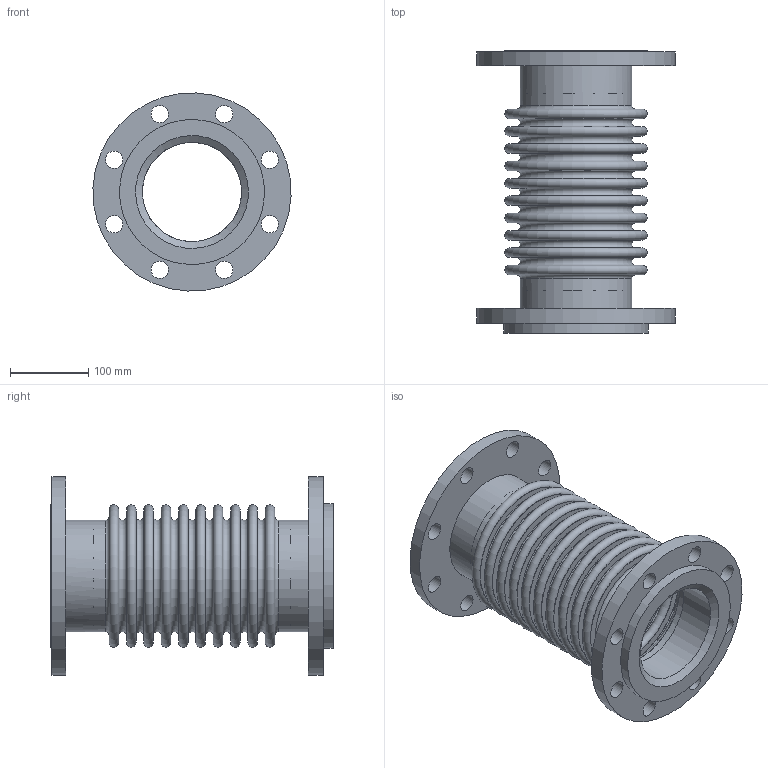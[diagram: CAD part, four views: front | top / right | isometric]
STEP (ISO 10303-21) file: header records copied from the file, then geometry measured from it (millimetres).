
FILE_DESCRIPTION(/* description */ (''),/* implementation_level */ '2;1');
FILE_NAME(/* name */ 'C:\001_Work\Designs\EFL50-ASA150LB\EFL50-5x14.25 (ASA150LB).stp',/* time_stamp */ '2016-05-10T08:24:51-04:00',/* author */ ('rramoutar'),/* organization */ ('Mason Industries Inc.'),/* preprocessor_version */ 'ST-DEVELOPER v15.6',/* originating_system */ 'Autodesk Inventor 2015',/* authorisation */ '');
FILE_SCHEMA (('CONFIG_CONTROL_DESIGN'));
Length unit declared in the file: inch
Products named in the file (1): EFL50-5x14.25
Bounding box: 253.76 x 361.95 x 253.76 mm (x, y, z)
Volume: 1917854.2 mm3; surface area: 860512.1 mm2
Topology: 1 solids, 1 shells, 125 faces, 236 edges, 162 vertices
Faces by surface type: plane 51, torus 42, cylinder 28, cone 4
Full cylindrical faces by diameter (mm): 22.225 x16, 127 x2, 140.843 x2, 142.875 x2, 144.463 x3, 185.737 x1, 254 x2
Entity records: 2897 total; most frequent: DIRECTION 534, CARTESIAN_POINT 408, EDGE_LOOP 282, ORIENTED_EDGE 282, AXIS2_PLACEMENT_3D 267, FACE_BOUND 157, CIRCLE 141, VERTEX_POINT 141
